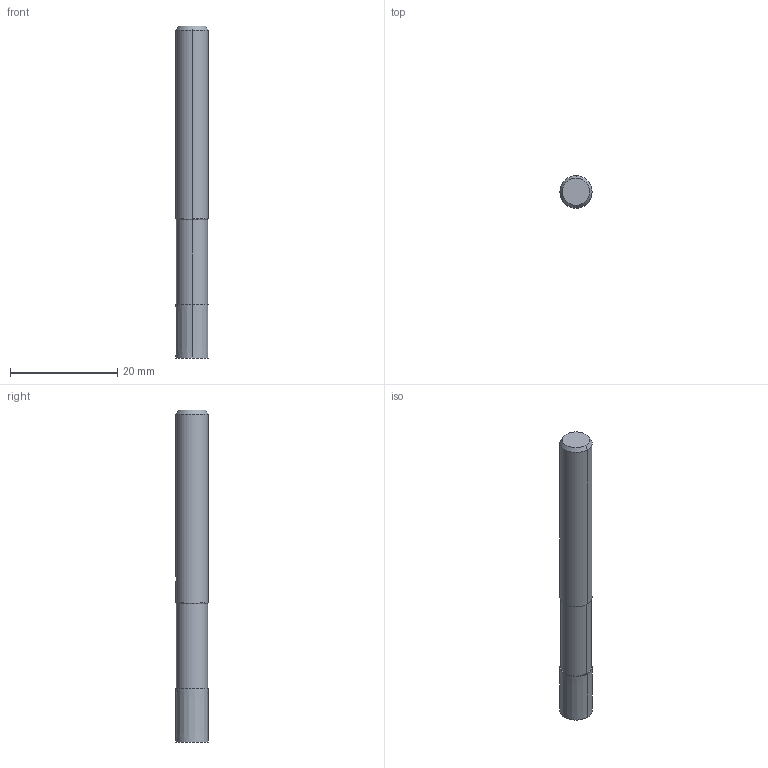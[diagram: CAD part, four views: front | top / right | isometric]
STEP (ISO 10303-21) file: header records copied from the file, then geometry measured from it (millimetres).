
FILE_DESCRIPTION(('no description'),'unknown implementation level');
FILE_NAME('solid1PdZAfH33nz6yY8Z7zHCwx1z_Lw_1.STP',' ',('CIMSOURCE GmbH'),('CADClick - KiM GmbH - www.kimweb.de'),'unknown preprocess','ACIS','unknown authorization');
FILE_SCHEMA(('automotive_design'));
Length unit declared in the file: millimetre
Products named in the file (2): NOCUT; CUT
Bounding box: 6 x 6 x 62 mm (x, y, z)
Volume: 1720 mm3; surface area: 1470.7 mm2
Topology: 2 solids, 2 shells, 41 faces, 93 edges, 58 vertices
Faces by surface type: cylinder 16, cone 14, plane 11
Entity records: 2488 total; most frequent: CARTESIAN_POINT 414, DIRECTION 211, STYLED_ITEM 194, PRESENTATION_STYLE_ASSIGNMENT 194, COLOUR_RGB 194, ORIENTED_EDGE 186, EDGE_CURVE 93, CURVE_STYLE 93
